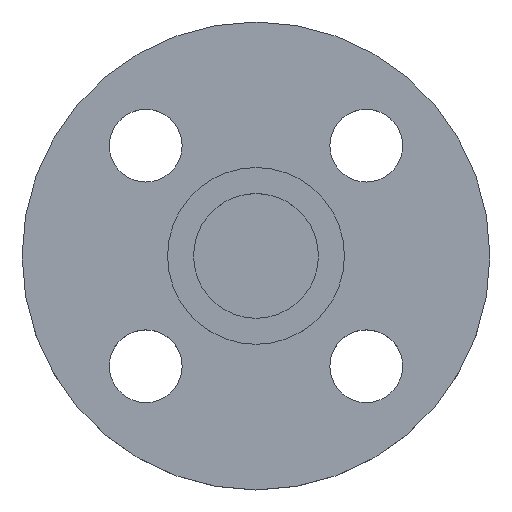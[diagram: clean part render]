
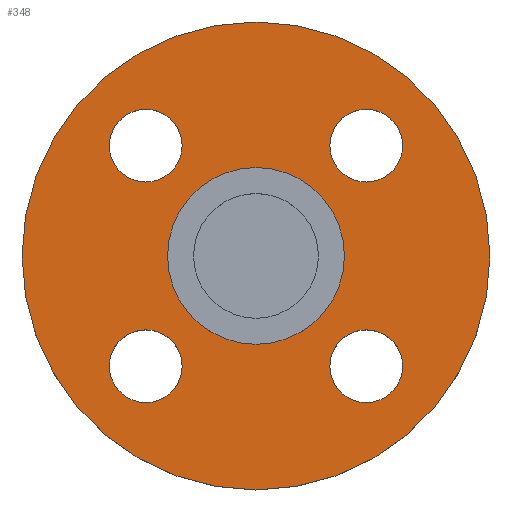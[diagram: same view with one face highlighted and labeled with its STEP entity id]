
A CAD part, top view. The second image highlights one B-rep face of the part: STEP entity #348.
In plain terms, the highlighted planar face has unit normal (0, 0, 1).
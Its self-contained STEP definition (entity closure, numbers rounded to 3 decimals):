
#8 = EDGE_CURVE ( 'NONE', #521, #522, #508, .T. ) ;
#9 = EDGE_CURVE ( 'NONE', #714, #620, #54, .T. ) ;
#36 = EDGE_CURVE ( 'NONE', #708, #532, #504, .T. ) ;
#41 = CIRCLE ( 'NONE', #42, 45. ) ;
#42 = AXIS2_PLACEMENT_3D ( 'NONE', #298, #410, #431 ) ;
#52 = AXIS2_PLACEMENT_3D ( 'NONE', #738, #739, #740 ) ;
#54 = CIRCLE ( 'NONE', #55, 7. ) ;
#55 = AXIS2_PLACEMENT_3D ( 'NONE', #741, #742, #743 ) ;
#90 = DIRECTION ( 'NONE',  ( 1., 0., 0. ) ) ;
#91 = DIRECTION ( 'NONE',  ( 0., 0., -1. ) ) ;
#92 = CARTESIAN_POINT ( 'NONE',  ( -21.213, 21.213, -4.5 ) ) ;
#97 = AXIS2_PLACEMENT_3D ( 'NONE', #761, #762, #763 ) ;
#119 = CARTESIAN_POINT ( 'NONE',  ( -17., 0., -4.5 ) ) ;
#128 = EDGE_CURVE ( 'NONE', #522, #521, #490, .T. ) ;
#132 = CIRCLE ( 'NONE', #135, 45. ) ;
#135 = AXIS2_PLACEMENT_3D ( 'NONE', #813, #817, #818 ) ;
#168 = CARTESIAN_POINT ( 'NONE',  ( 21.213, -21.213, -4.5 ) ) ;
#170 = DIRECTION ( 'NONE',  ( 0., 0., -1. ) ) ;
#172 = DIRECTION ( 'NONE',  ( 1., 0., 0. ) ) ;
#173 = FACE_BOUND ( 'NONE', #707, .T. ) ;
#174 = FACE_BOUND ( 'NONE', #559, .T. ) ;
#176 = DIRECTION ( 'NONE',  ( 1., 0., 0. ) ) ;
#177 = DIRECTION ( 'NONE',  ( 0., 0., -1. ) ) ;
#178 = FACE_BOUND ( 'NONE', #530, .T. ) ;
#179 = FACE_BOUND ( 'NONE', #560, .T. ) ;
#180 = CARTESIAN_POINT ( 'NONE',  ( -21.213, -21.213, -4.5 ) ) ;
#181 = FACE_BOUND ( 'NONE', #555, .T. ) ;
#183 = FACE_OUTER_BOUND ( 'NONE', #524, .T. ) ;
#186 = PLANE ( 'NONE',  #427 ) ;
#190 = CARTESIAN_POINT ( 'NONE',  ( 17., 0., -4.5 ) ) ;
#193 = DIRECTION ( 'NONE',  ( 0., 0., 1. ) ) ;
#195 = DIRECTION ( 'NONE',  ( 1., 0., 0. ) ) ;
#206 = CARTESIAN_POINT ( 'NONE',  ( 28.213, -21.213, -4.5 ) ) ;
#221 = EDGE_CURVE ( 'NONE', #576, #713, #132, .T. ) ;
#222 = CARTESIAN_POINT ( 'NONE',  ( -45., 0., -4.5 ) ) ;
#265 = CIRCLE ( 'NONE', #282, 17. ) ;
#282 = AXIS2_PLACEMENT_3D ( 'NONE', #337, #336, #326 ) ;
#287 = CIRCLE ( 'NONE', #289, 17. ) ;
#289 = AXIS2_PLACEMENT_3D ( 'NONE', #308, #499, #545 ) ;
#298 = CARTESIAN_POINT ( 'NONE',  ( 0., 0., -4.5 ) ) ;
#308 = CARTESIAN_POINT ( 'NONE',  ( 0., 0., -4.5 ) ) ;
#313 = CARTESIAN_POINT ( 'NONE',  ( 17., 0., -4.5 ) ) ;
#322 = CARTESIAN_POINT ( 'NONE',  ( 28.213, 21.213, -4.5 ) ) ;
#326 = DIRECTION ( 'NONE',  ( -1., 0., 0. ) ) ;
#327 = CIRCLE ( 'NONE', #328, 7. ) ;
#328 = AXIS2_PLACEMENT_3D ( 'NONE', #180, #177, #176 ) ;
#333 = CARTESIAN_POINT ( 'NONE',  ( -28.213, 21.213, -4.5 ) ) ;
#336 = DIRECTION ( 'NONE',  ( 0., 0., -1. ) ) ;
#337 = CARTESIAN_POINT ( 'NONE',  ( 0., 0., -4.5 ) ) ;
#340 = EDGE_CURVE ( 'NONE', #620, #714, #454, .T. ) ;
#348 = ADVANCED_FACE ( 'NONE', ( #173, #174, #178, #179, #181, #183 ), #186, .T. ) ;
#359 = CARTESIAN_POINT ( 'NONE',  ( 14.213, -21.213, -4.5 ) ) ;
#378 = CIRCLE ( 'NONE', #400, 7. ) ;
#393 = CARTESIAN_POINT ( 'NONE',  ( -14.213, -21.213, -4.5 ) ) ;
#399 = CARTESIAN_POINT ( 'NONE',  ( 14.213, 21.213, -4.5 ) ) ;
#400 = AXIS2_PLACEMENT_3D ( 'NONE', #92, #91, #90 ) ;
#410 = DIRECTION ( 'NONE',  ( 0., 0., -1. ) ) ;
#422 = CARTESIAN_POINT ( 'NONE',  ( -21.213, 21.213, -4.5 ) ) ;
#427 = AXIS2_PLACEMENT_3D ( 'NONE', #190, #193, #195 ) ;
#431 = DIRECTION ( 'NONE',  ( -1., 0., 0. ) ) ;
#437 = AXIS2_PLACEMENT_3D ( 'NONE', #168, #170, #172 ) ;
#444 = DIRECTION ( 'NONE',  ( 0., 0., -1. ) ) ;
#447 = DIRECTION ( 'NONE',  ( 1., 0., 0. ) ) ;
#454 = CIRCLE ( 'NONE', #437, 7. ) ;
#466 = CARTESIAN_POINT ( 'NONE',  ( 45., 0., -4.5 ) ) ;
#469 = CARTESIAN_POINT ( 'NONE',  ( -14.213, 21.213, -4.5 ) ) ;
#476 = EDGE_CURVE ( 'NONE', #713, #576, #41, .T. ) ;
#483 = EDGE_CURVE ( 'NONE', #547, #564, #501, .T. ) ;
#489 = AXIS2_PLACEMENT_3D ( 'NONE', #774, #778, #779 ) ;
#490 = CIRCLE ( 'NONE', #489, 7. ) ;
#494 = AXIS2_PLACEMENT_3D ( 'NONE', #422, #444, #447 ) ;
#497 = CARTESIAN_POINT ( 'NONE',  ( -28.213, -21.213, -4.5 ) ) ;
#499 = DIRECTION ( 'NONE',  ( 0., 0., -1. ) ) ;
#501 = CIRCLE ( 'NONE', #494, 7. ) ;
#504 = CIRCLE ( 'NONE', #97, 7. ) ;
#508 = CIRCLE ( 'NONE', #52, 7. ) ;
#521 = VERTEX_POINT ( 'NONE', #399 ) ;
#522 = VERTEX_POINT ( 'NONE', #322 ) ;
#524 = EDGE_LOOP ( 'NONE', ( #642, #643 ) ) ;
#530 = EDGE_LOOP ( 'NONE', ( #635, #636 ) ) ;
#532 = VERTEX_POINT ( 'NONE', #393 ) ;
#545 = DIRECTION ( 'NONE',  ( -1., 0., 0. ) ) ;
#547 = VERTEX_POINT ( 'NONE', #333 ) ;
#555 = EDGE_LOOP ( 'NONE', ( #639, #641 ) ) ;
#559 = EDGE_LOOP ( 'NONE', ( #633, #634 ) ) ;
#560 = EDGE_LOOP ( 'NONE', ( #637, #638 ) ) ;
#564 = VERTEX_POINT ( 'NONE', #469 ) ;
#576 = VERTEX_POINT ( 'NONE', #466 ) ;
#620 = VERTEX_POINT ( 'NONE', #359 ) ;
#631 = ORIENTED_EDGE ( 'NONE', *, *, #9, .T. ) ;
#632 = ORIENTED_EDGE ( 'NONE', *, *, #340, .T. ) ;
#633 = ORIENTED_EDGE ( 'NONE', *, *, #720, .T. ) ;
#634 = ORIENTED_EDGE ( 'NONE', *, *, #36, .T. ) ;
#635 = ORIENTED_EDGE ( 'NONE', *, *, #791, .T. ) ;
#636 = ORIENTED_EDGE ( 'NONE', *, *, #483, .T. ) ;
#637 = ORIENTED_EDGE ( 'NONE', *, *, #128, .T. ) ;
#638 = ORIENTED_EDGE ( 'NONE', *, *, #8, .T. ) ;
#639 = ORIENTED_EDGE ( 'NONE', *, *, #674, .T. ) ;
#641 = ORIENTED_EDGE ( 'NONE', *, *, #683, .T. ) ;
#642 = ORIENTED_EDGE ( 'NONE', *, *, #221, .F. ) ;
#643 = ORIENTED_EDGE ( 'NONE', *, *, #476, .F. ) ;
#674 = EDGE_CURVE ( 'NONE', #733, #681, #265, .T. ) ;
#681 = VERTEX_POINT ( 'NONE', #313 ) ;
#683 = EDGE_CURVE ( 'NONE', #681, #733, #287, .T. ) ;
#707 = EDGE_LOOP ( 'NONE', ( #631, #632 ) ) ;
#708 = VERTEX_POINT ( 'NONE', #497 ) ;
#713 = VERTEX_POINT ( 'NONE', #222 ) ;
#714 = VERTEX_POINT ( 'NONE', #206 ) ;
#720 = EDGE_CURVE ( 'NONE', #532, #708, #327, .T. ) ;
#733 = VERTEX_POINT ( 'NONE', #119 ) ;
#738 = CARTESIAN_POINT ( 'NONE',  ( 21.213, 21.213, -4.5 ) ) ;
#739 = DIRECTION ( 'NONE',  ( 0., 0., -1. ) ) ;
#740 = DIRECTION ( 'NONE',  ( 1., 0., 0. ) ) ;
#741 = CARTESIAN_POINT ( 'NONE',  ( 21.213, -21.213, -4.5 ) ) ;
#742 = DIRECTION ( 'NONE',  ( 0., 0., -1. ) ) ;
#743 = DIRECTION ( 'NONE',  ( 1., 0., 0. ) ) ;
#761 = CARTESIAN_POINT ( 'NONE',  ( -21.213, -21.213, -4.5 ) ) ;
#762 = DIRECTION ( 'NONE',  ( 0., 0., -1. ) ) ;
#763 = DIRECTION ( 'NONE',  ( 1., 0., 0. ) ) ;
#774 = CARTESIAN_POINT ( 'NONE',  ( 21.213, 21.213, -4.5 ) ) ;
#778 = DIRECTION ( 'NONE',  ( 0., 0., -1. ) ) ;
#779 = DIRECTION ( 'NONE',  ( 1., 0., 0. ) ) ;
#791 = EDGE_CURVE ( 'NONE', #564, #547, #378, .T. ) ;
#813 = CARTESIAN_POINT ( 'NONE',  ( 0., 0., -4.5 ) ) ;
#817 = DIRECTION ( 'NONE',  ( 0., 0., -1. ) ) ;
#818 = DIRECTION ( 'NONE',  ( -1., 0., 0. ) ) ;
